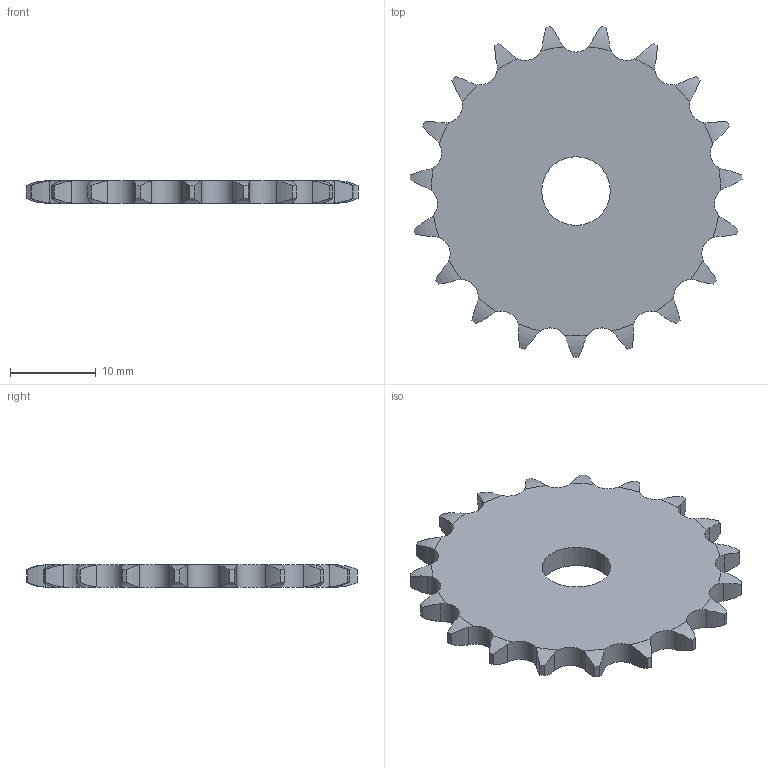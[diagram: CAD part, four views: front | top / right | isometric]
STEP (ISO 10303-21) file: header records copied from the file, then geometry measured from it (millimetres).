
FILE_DESCRIPTION((''),'2;1');
FILE_NAME('500-061-0019_PRT','2021-02-12T',('Brieden'),('Brieden'),'PRO/ENGINEER BY PARAMETRIC TECHNOLOGY CORPORATION, 2010160','PRO/ENGINEER BY PARAMETRIC TECHNOLOGY CORPORATION, 2010160','');
FILE_SCHEMA(('AUTOMOTIVE_DESIGN { 1 0 10303 214 1 1 1 1 }'));
Length unit declared in the file: millimetre
Products named in the file (1): 500-061-0019_PRT
Bounding box: 38.71 x 38.58 x 2.6 mm (x, y, z)
Volume: 2313.5 mm3; surface area: 2275.5 mm2
Topology: 1 solids, 1 shells, 118 faces, 348 edges, 232 vertices
Faces by surface type: cylinder 78, torus 38, plane 2
Entity records: 5494 total; most frequent: CARTESIAN_POINT 1411, ORIENTED_EDGE 696, DIRECTION 550, PRESENTATION_STYLE_ASSIGNMENT 349, STYLED_ITEM 349, CURVE_STYLE 348, EDGE_CURVE 348, AXIS2_PLACEMENT_3D 236
